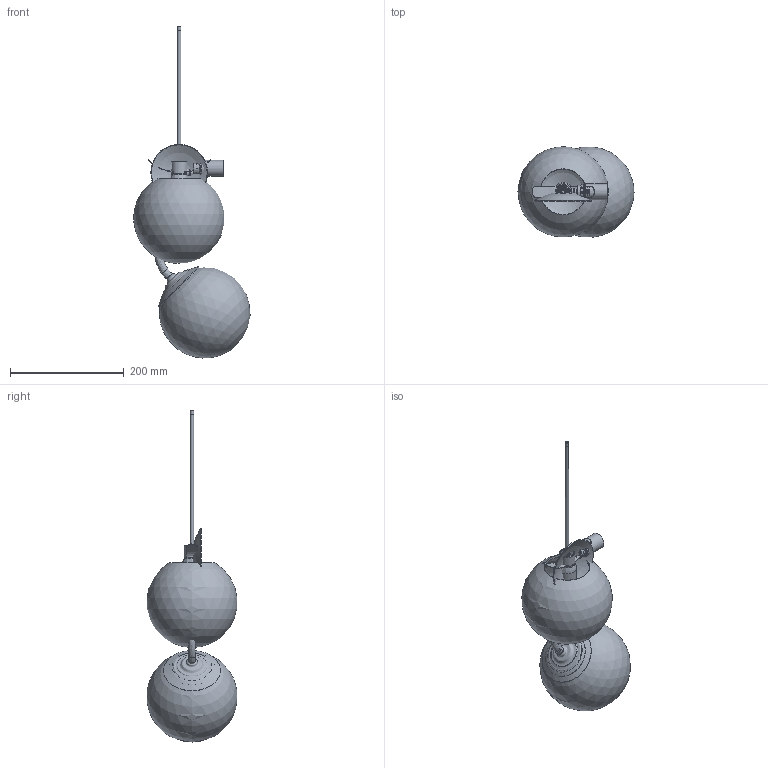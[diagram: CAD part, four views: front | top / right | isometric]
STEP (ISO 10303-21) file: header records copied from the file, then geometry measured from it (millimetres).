
FILE_DESCRIPTION( ( 'Unknown' ), '1' );
FILE_NAME( '//MMS001/Pubblica/PROGETTI MM LAMPADARI/7428 ESSE/7428BMP2TR0 BRACCIO PICCOLO.stp', 'Unknown', ( 'Unknown' ), ( 'Unknown' ), 'XStep 1.0', 'Unknown', ' ' );
FILE_SCHEMA( ( 'automotive_design' ) );
Length unit declared in the file: millimetre
Products named in the file (18): Assem1; Assem2; 400231108 CAPPELLOTTO E14 BIANCO; 400233112 CAMICIA E14 BIANCA LISCIA; 7428C001 SFERA DUE FILETTI; 7428C002 BRACCIO PICCOLO; 400104015 TUBETTO FILETTATO D9,5 L=15; 400104020 TUBETTO FILETTATO D9,5 L=20; 7428C005 PIATTINO BOMBATO; 400116003 BICCHIERINO E14; 7428C006 DECORO SU PIATTO; 400109001 RONDELLA DENTATA M10; 400108502 DADO M10x1; 400343354 SFERA D160 MM BL LUCIDO F.80; 400110034 MOLLA ACCIAIO SP.0,3 MM L.120 MM; 400900848 RACCORDO OT D.13X17 MM M10X1 FIL.M6; 300239020 CAVO 2X0,75 TONDO TRASP. FEP+PVC
Bounding box: 204.6 x 158.28 x 584.87 mm (x, y, z)
Volume: 718520.1 mm3; surface area: 464052.1 mm2
Topology: 34 solids, 34 shells, 1007 faces, 2679 edges, 1749 vertices
Faces by surface type: plane 615, cylinder 203, cone 85, bspline 52, torus 30, revolution 12, sphere 10
Full cylindrical faces by diameter (mm): 1.567 x3, 2 x3, 3 x3, 4.917 x2, 6 x2, 7 x2, 8 x4, 8.917 x10, 10 x8, 10.25 x6, 12 x4, 13 x2, 14 x2, 16 x3, 20 x3, 22.5 x15, 28 x6, 32 x2, 33 x2, 80 x2
Entity records: 20183 total; most frequent: CARTESIAN_POINT 9818, DIRECTION 1885, ORIENTED_EDGE 1812, EDGE_CURVE 906, AXIS2_PLACEMENT_3D 718, VERTEX_POINT 633, EDGE_LOOP 491, FACE_OUTER_BOUND 443
